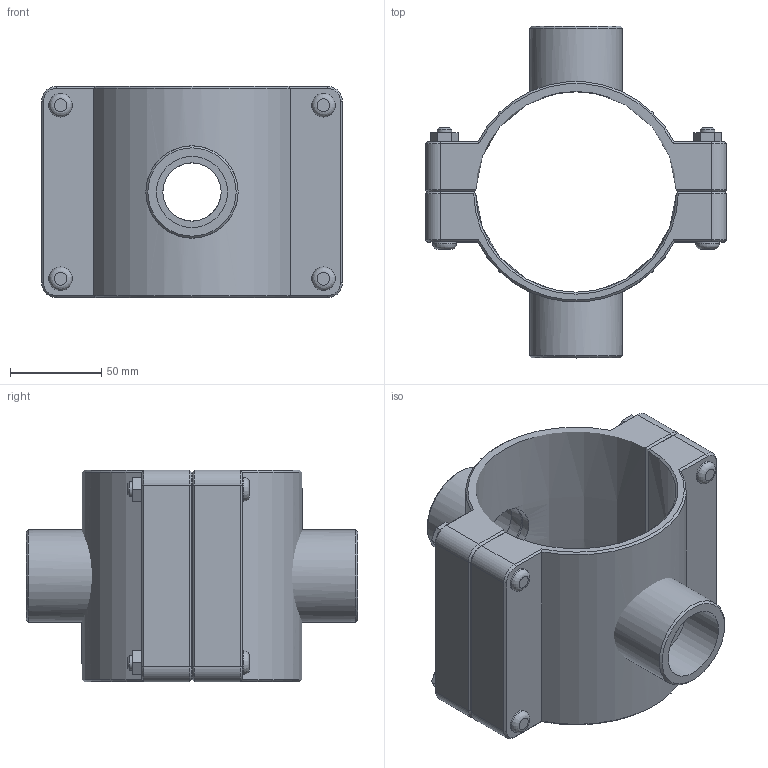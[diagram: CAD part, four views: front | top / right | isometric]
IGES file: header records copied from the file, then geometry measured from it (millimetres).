
Global section: file name: 161760110013_161860110013.ipt; native system: Autodesk Inventor 2015; preprocessor: unknown; author: KIM; date: 20170618.093741; units: millimetre
Bounding box: 165 x 182 x 116 mm (x, y, z)
Volume: 592263.7 mm3; surface area: 137853.8 mm2
Topology: 3 solids, 3 shells, 151 faces, 350 edges, 221 vertices
Faces by surface type: plane 84, cone 26, cylinder 24, revolution 17
Full cylindrical faces by diameter (mm): 8 x4, 13 x8, 50.638 x2
